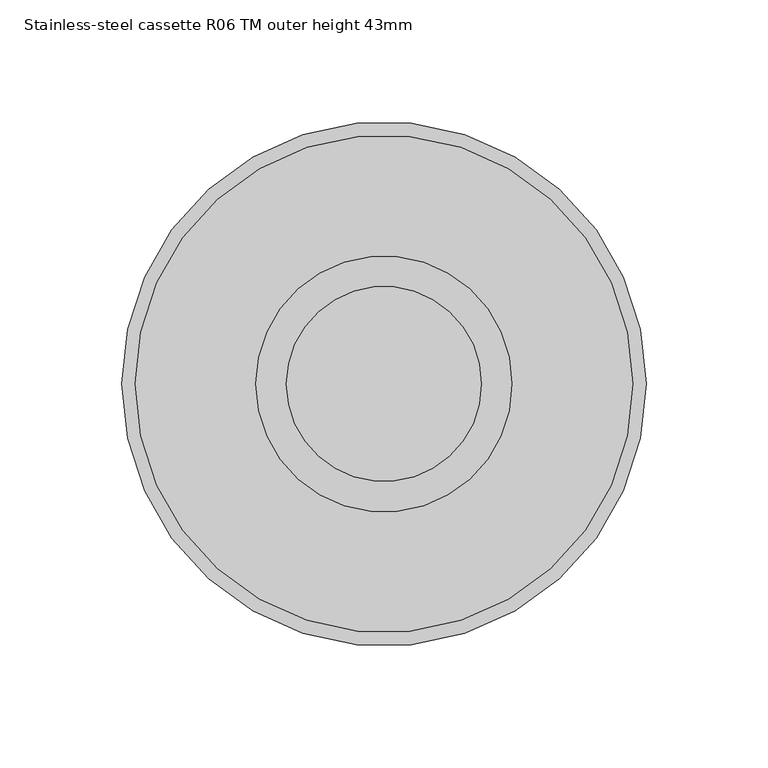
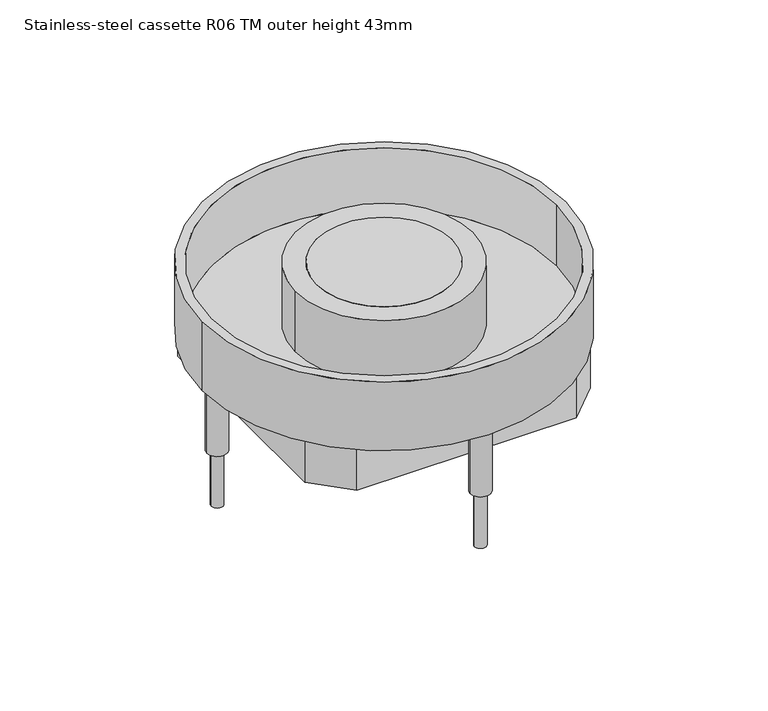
"""IFC4 building model written with IfcOpenShell, lengths in millimetres: proxy geometry, Electrical_Installation_Hager_VE-EE_EKR-Height-adjustable-stainless-steel-cassette-with-tube-mounting-set-round-for-damp-cleaned-floors : Stainless-steel cassette R06 TM outer height 43mm."""

from ifc_helpers import new_model, si_unit, point, frame, frame_2d, origin, origin_with_axes, origin_2d, place, context, project, spatial, polyline, circle_curve, trimmed, segment, composite_curve, outline, extrude, source, transform, mapped, element, save
from ifc_brep_helpers import plane_surface, cylinder_surface, revolved_surface, advanced_brep


def stainless_steel_cassette_r06_tm_outer_height_43mm_7b33f558(model_context):
    return source(origin(), model_context, "Body", "SolidModel", [
        extrude(outline(composite_curve([segment(trimmed(circle_curve(origin_2d(), 40.0), [point((-40.0, 0.0))], [point((40.0, 0.0))], False, "CARTESIAN"), True, "CONTINUOUS"), segment(trimmed(circle_curve(origin_2d(), 40.0), [point((40.0, 0.0))], [point((-40.0, 0.0))], False, "CARTESIAN"), True, "CONTINUOUS")], self_intersect=False)), origin_with_axes(), (0.0, 0.0, 1.0), 2.011943),
        advanced_brep(
        [(-52.5, 0.0, 2.011943), (52.5, 0.0, 2.011943), (-40.0, 0.0, 2.011943), (40.0, 0.0, 2.011943), (-52.5, 0.0, -35.988057), (52.5, 0.0, -35.988057), (-40.0, 0.0, -35.988057), (40.0, 0.0, -35.988057), (-52.5, 0.0, 0.0), (52.5, 0.0, 0.0), (-40.0, 0.0, 0.0), (40.0, 0.0, 0.0)],
        [
            (0, 1, circle_curve(frame((0.0, 0.0, 2.011943), z_axis=(0.0, 0.0, 1.0), x_axis=(1.0, 0.0, 0.0)), 52.5)),
            (1, 0, circle_curve(frame((0.0, 0.0, 2.011943), z_axis=(0.0, 0.0, 1.0), x_axis=(1.0, 0.0, 0.0)), 52.5)),
            (2, 3, circle_curve(frame((0.0, 0.0, 2.011943), z_axis=(0.0, 0.0, -1.0), x_axis=(1.0, 0.0, 0.0)), 40.0)),
            (3, 2, circle_curve(frame((0.0, 0.0, 2.011943), z_axis=(0.0, 0.0, -1.0), x_axis=(1.0, 0.0, 0.0)), 40.0)),
            (4, 5, circle_curve(frame((0.0, 0.0, -35.988057), z_axis=(0.0, 0.0, -1.0), x_axis=(1.0, 0.0, 0.0)), 52.5)),
            (5, 4, circle_curve(frame((0.0, 0.0, -35.988057), z_axis=(0.0, 0.0, -1.0), x_axis=(1.0, 0.0, 0.0)), 52.5)),
            (6, 7, circle_curve(frame((0.0, 0.0, -35.988057), z_axis=(0.0, 0.0, 1.0), x_axis=(1.0, 0.0, 0.0)), 40.0)),
            (7, 6, circle_curve(frame((0.0, 0.0, -35.988057), z_axis=(0.0, 0.0, 1.0), x_axis=(1.0, 0.0, 0.0)), 40.0)),
            (0, 8),
            (8, 4),
            (5, 9),
            (9, 1),
            (2, 10),
            (10, 6),
            (7, 11),
            (11, 3),
        ],
        [
            plane_surface(frame((52.5, 0.0, 2.011943), z_axis=(0.0, 0.0, 1.0), x_axis=(0.0, 1.0, 0.0))),
            plane_surface(frame((52.5, 0.0, -35.988057), z_axis=(0.0, 0.0, -1.0), x_axis=(0.0, -1.0, 0.0))),
            cylinder_surface(frame((0.0, 0.0, -35.988057), z_axis=(0.0, 0.0, 1.0), x_axis=(1.0, 0.0, 0.0)), 52.5),
            revolved_surface(polyline([(40.0, 0.0, -35.988057), (40.0, 0.0, 2.011943)]), (0.0, 0.0, 0.0), (0.0, 0.0, -1.0)),
        ],
        [
            (0, [[1, 2], [3, 4]]),
            (1, [[5, 6], [7, 8]]),
            (2, [[-1, 9, 10, -6, 11, 12]]),
            (2, [[-2, -12, -11, -5, -10, -9]]),
            (3, [[-3, 13, 14, -8, 15, 16]]),
            (3, [[-4, -16, -15, -7, -14, -13]]),
        ],
    ),
        extrude(outline(composite_curve([segment(trimmed(circle_curve(frame_2d((-98.8, 0.0)), 3.5), [point((-102.3, 0.0))], [point((-95.3, 0.0))], False, "CARTESIAN"), True, "CONTINUOUS"), segment(trimmed(circle_curve(frame_2d((-98.8, 0.0)), 3.5), [point((-95.3, 0.0))], [point((-102.3, 0.0))], False, "CARTESIAN"), True, "CONTINUOUS")], self_intersect=False)), frame((0.0, 0.0, -115.0), z_axis=(0.0, 0.0, 1.0), x_axis=(1.0, 0.0, 0.0)), (0.0, 0.0, 1.0), 74.011943),
        extrude(outline(composite_curve([segment(trimmed(circle_curve(frame_2d((0.0, 98.8)), 3.5), [point((-3.5, 98.8))], [point((3.5, 98.8))], False, "CARTESIAN"), True, "CONTINUOUS"), segment(trimmed(circle_curve(frame_2d((0.0, 98.8)), 3.5), [point((3.5, 98.8))], [point((-3.5, 98.8))], False, "CARTESIAN"), True, "CONTINUOUS")], self_intersect=False)), frame((0.0, 0.0, -115.0), z_axis=(0.0, 0.0, 1.0), x_axis=(1.0, 0.0, 0.0)), (0.0, 0.0, 1.0), 74.011943),
        extrude(outline(composite_curve([segment(trimmed(circle_curve(frame_2d((98.8, 0.0)), 3.548869), [point((95.251131, 0.0))], [point((102.348869, 0.0))], False, "CARTESIAN"), True, "CONTINUOUS"), segment(trimmed(circle_curve(frame_2d((98.8, 0.0)), 3.548869), [point((102.348869, 0.0))], [point((95.251131, 0.0))], False, "CARTESIAN"), True, "CONTINUOUS")], self_intersect=False)), frame((0.0, 0.0, -115.0), z_axis=(0.0, 0.0, 1.0), x_axis=(1.0, 0.0, 0.0)), (0.0, 0.0, 1.0), 74.011943),
        extrude(outline(composite_curve([segment(trimmed(circle_curve(frame_2d((0.0, -98.8)), 3.5), [point((-3.5, -98.8))], [point((3.5, -98.8))], False, "CARTESIAN"), True, "CONTINUOUS"), segment(trimmed(circle_curve(frame_2d((0.0, -98.8)), 3.5), [point((3.5, -98.8))], [point((-3.5, -98.8))], False, "CARTESIAN"), True, "CONTINUOUS")], self_intersect=False)), frame((0.0, 0.0, -115.0), z_axis=(0.0, 0.0, 1.0), x_axis=(1.0, 0.0, 0.0)), (0.0, 0.0, 1.0), 74.011943),
        advanced_brep(
        [(102.0, 0.0, -35.988057), (-102.0, 0.0, -35.988057), (-40.0, 0.0, -35.988057), (40.0, 0.0, -35.988057), (-107.5, 0.0, -40.988057), (107.5, 0.0, -40.988057), (-40.0, 0.0, -40.988057), (40.0, 0.0, -40.988057), (-107.5, 0.0, 2.011943), (107.5, 0.0, 2.011943), (-102.0, 0.0, 2.011943), (102.0, 0.0, 2.011943)],
        [
            (0, 1, circle_curve(frame((0.0, 0.0, -35.988057), z_axis=(0.0, 0.0, 1.0), x_axis=(1.0, 0.0, 0.0)), 102.0)),
            (1, 0, circle_curve(frame((0.0, 0.0, -35.988057), z_axis=(0.0, 0.0, 1.0), x_axis=(1.0, 0.0, 0.0)), 102.0)),
            (2, 3, circle_curve(frame((0.0, 0.0, -35.988057), z_axis=(0.0, 0.0, -1.0), x_axis=(1.0, 0.0, 0.0)), 40.0)),
            (3, 2, circle_curve(frame((0.0, 0.0, -35.988057), z_axis=(0.0, 0.0, -1.0), x_axis=(1.0, 0.0, 0.0)), 40.0)),
            (4, 5, circle_curve(frame((0.0, 0.0, -40.988057), z_axis=(0.0, 0.0, -1.0), x_axis=(1.0, 0.0, 0.0)), 107.5)),
            (5, 4, circle_curve(frame((0.0, 0.0, -40.988057), z_axis=(0.0, 0.0, -1.0), x_axis=(1.0, 0.0, 0.0)), 107.5)),
            (6, 7, circle_curve(frame((0.0, 0.0, -40.988057), z_axis=(0.0, 0.0, 1.0), x_axis=(1.0, 0.0, 0.0)), 40.0)),
            (7, 6, circle_curve(frame((0.0, 0.0, -40.988057), z_axis=(0.0, 0.0, 1.0), x_axis=(1.0, 0.0, 0.0)), 40.0)),
            (8, 9, circle_curve(frame((0.0, 0.0, 2.011943), z_axis=(0.0, 0.0, 1.0), x_axis=(1.0, 0.0, 0.0)), 107.5)),
            (9, 8, circle_curve(frame((0.0, 0.0, 2.011943), z_axis=(0.0, 0.0, 1.0), x_axis=(1.0, 0.0, 0.0)), 107.5)),
            (10, 11, circle_curve(frame((0.0, 0.0, 2.011943), z_axis=(0.0, 0.0, -1.0), x_axis=(1.0, 0.0, 0.0)), 102.0)),
            (11, 10, circle_curve(frame((0.0, 0.0, 2.011943), z_axis=(0.0, 0.0, -1.0), x_axis=(1.0, 0.0, 0.0)), 102.0)),
            (8, 4),
            (5, 9),
            (10, 1),
            (0, 11),
            (2, 6),
            (7, 3),
        ],
        [
            plane_surface(frame((102.0, 0.0, -35.988057), z_axis=(0.0, 0.0, 1.0), x_axis=(0.0, 1.0, 0.0))),
            plane_surface(frame((102.0, 0.0, -40.988057), z_axis=(0.0, 0.0, -1.0), x_axis=(0.0, -1.0, 0.0))),
            plane_surface(frame((107.5, 0.0, 2.011943), z_axis=(0.0, 0.0, 1.0), x_axis=(0.0, 1.0, 0.0))),
            cylinder_surface(frame((0.0, 0.0, -40.988057), z_axis=(0.0, 0.0, 1.0), x_axis=(1.0, 0.0, 0.0)), 107.5),
            revolved_surface(polyline([(102.0, 0.0, -35.988057), (102.0, 0.0, 2.011943)]), (0.0, 0.0, 0.0), (0.0, 0.0, -1.0)),
            revolved_surface(polyline([(40.0, 0.0, -40.988057), (40.0, 0.0, -35.988057)]), (0.0, 0.0, 0.0), (0.0, 0.0, -1.0)),
        ],
        [
            (0, [[1, 2], [3, 4]]),
            (1, [[5, 6], [7, 8]]),
            (2, [[9, 10], [11, 12]]),
            (3, [[-9, 13, -6, 14]]),
            (3, [[-10, -14, -5, -13]]),
            (4, [[-11, 15, -1, 16]]),
            (4, [[-12, -16, -2, -15]]),
            (5, [[-3, 17, -8, 18]]),
            (5, [[-4, -18, -7, -17]]),
        ],
    ),
        extrude(outline(polyline([(64.9818914, 84.5), (84.5, 64.9818914), (84.5, -64.9818914), (64.9818914, -84.5), (-64.9818914, -84.5), (-84.5, -64.9818914), (-84.5, 64.9818914), (-64.9818914, 84.5), (64.9818914, 84.5)]), holes=[polyline([(-81.5, 63.8602374), (-81.5, -63.8602374), (-63.8602374, -81.5), (63.8602374, -81.5), (81.5, -63.8602374), (81.5, 63.8602374), (63.8602374, 81.5), (-63.8602374, 81.5), (-81.5, 63.8602374)])]), frame((0.0, 0.0, -66.9261016), z_axis=(0.0, 0.0, 1.0), x_axis=(1.0, 0.0, 0.0)), (0.0, 0.0, 1.0), 25.9380446),
        extrude(outline(composite_curve([segment(trimmed(circle_curve(frame_2d((0.0, 98.8)), 5.9738904), [point((-5.9738904, 98.8))], [point((5.9738904, 98.8))], False, "CARTESIAN"), True, "CONTINUOUS"), segment(trimmed(circle_curve(frame_2d((0.0, 98.8)), 5.9738904), [point((5.9738904, 98.8))], [point((-5.9738904, 98.8))], False, "CARTESIAN"), True, "CONTINUOUS")], self_intersect=False)), frame((0.0, 0.0, -81.0371838), z_axis=(0.0, 0.0, 1.0), x_axis=(1.0, 0.0, 0.0)), (0.0, 0.0, 1.0), 40.0491267),
        extrude(outline(composite_curve([segment(trimmed(circle_curve(frame_2d((98.8, 0.0)), 6.0), [point((92.8, 0.0))], [point((104.8, 0.0))], False, "CARTESIAN"), True, "CONTINUOUS"), segment(trimmed(circle_curve(frame_2d((98.8, 0.0)), 6.0), [point((104.8, 0.0))], [point((92.8, 0.0))], False, "CARTESIAN"), True, "CONTINUOUS")], self_intersect=False)), frame((0.0, 0.0, -81.0371838), z_axis=(0.0, 0.0, 1.0), x_axis=(1.0, 0.0, 0.0)), (0.0, 0.0, 1.0), 40.0491267),
        extrude(outline(composite_curve([segment(trimmed(circle_curve(frame_2d((0.0, -98.8)), 6.0), [point((-6.0, -98.8))], [point((6.0, -98.8))], False, "CARTESIAN"), True, "CONTINUOUS"), segment(trimmed(circle_curve(frame_2d((0.0, -98.8)), 6.0), [point((6.0, -98.8))], [point((-6.0, -98.8))], False, "CARTESIAN"), True, "CONTINUOUS")], self_intersect=False)), frame((0.0, 0.0, -81.0371838), z_axis=(0.0, 0.0, 1.0), x_axis=(1.0, 0.0, 0.0)), (0.0, 0.0, 1.0), 40.0491267),
        extrude(outline(composite_curve([segment(trimmed(circle_curve(frame_2d((-98.8, 0.0)), 6.0), [point((-104.8, 0.0))], [point((-92.8, 0.0))], False, "CARTESIAN"), True, "CONTINUOUS"), segment(trimmed(circle_curve(frame_2d((-98.8, 0.0)), 6.0), [point((-92.8, 0.0))], [point((-104.8, 0.0))], False, "CARTESIAN"), True, "CONTINUOUS")], self_intersect=False)), frame((0.0, 0.0, -81.0371838), z_axis=(0.0, 0.0, 1.0), x_axis=(1.0, 0.0, 0.0)), (0.0, 0.0, 1.0), 40.0491267),
    ])


if __name__ == "__main__":
    model = new_model("IFC4")
    model_context = context("Model", 3, world=origin())
    ifc_project = project(units=[si_unit("LENGTHUNIT", "METRE", prefix="MILLI")], contexts=[model_context])
    site = spatial("IfcSite", under=ifc_project)
    building = spatial("IfcBuilding", under=site)
    placement = place(None, origin())
    stainless_steel_cassette_r06_tm_outer_height_43mm_shape = stainless_steel_cassette_r06_tm_outer_height_43mm_7b33f558(model_context)
    element("IfcBuildingElementProxy", 1, Name="Electrical_Installation_Hager_VE-EE_EKR-Height-adjustable-stainless-steel-cassette-with-tube-mounting-set-round-for-damp-cleaned-floors : Stainless-steel cassette R06 TM outer height 43mm", ObjectType="Electrical_Installation_Hager_VE-EE_EKR-Height-adjustable-stainless-steel-cassette-with-tube-mounting-set-round-for-damp-cleaned-floors : Stainless-steel cassette R06 TM outer height 43mm", at=placement, inside=building, context=model_context, shape_type="MappedRepresentation", body=[
        mapped(stainless_steel_cassette_r06_tm_outer_height_43mm_shape, transform((0.0, 0.0, 0.0), x_axis=(1.0, 0.0, 0.0), y_axis=(0.0, 1.0, 0.0), z_axis=(0.0, 0.0, 1.0))),
    ])
    save(model, "model.ifc")
